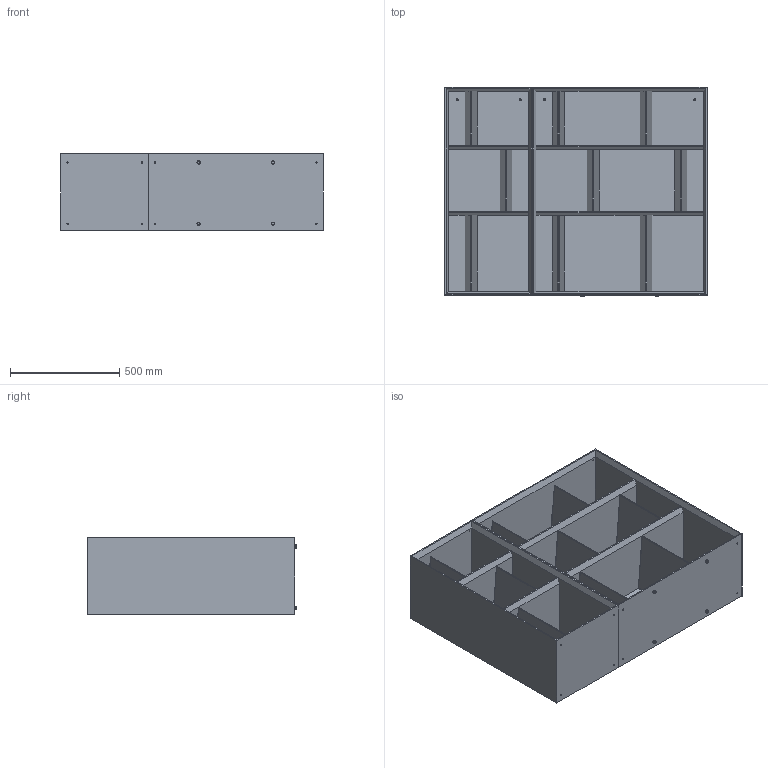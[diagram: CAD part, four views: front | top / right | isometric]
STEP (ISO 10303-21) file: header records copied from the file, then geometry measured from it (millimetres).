
FILE_DESCRIPTION (( 'STEP AP203' ), '1' );
FILE_NAME ('BL30S_Bendy A+B_120x35x95h.STEP', '2024-08-06T08:31:06', ( '' ), ( '' ), 'SwSTEP 2.0', 'SolidWorks 2022', '' );
FILE_SCHEMA (( 'CONFIG_CONTROL_DESIGN' ));
Length unit declared in the file: millimetre
Products named in the file (9): BEB00000-00-ASSIEME bendy 40x95cm_bendy B 40x95cm; BED000001-00-TRIANGOLO DIVISORIO_H.356; piedino M5; BED000001-00-TRIANGOLO DIVISORIO_H.256; BEx00000-01-BENDY Struttura tutte le dimensioni_bendy B 40x95cm<A macchina>; BED000001-00-TRIANGOLO DIVISORIO_H.292; BL30S_Bendy A+B_120x35x95h; BEx00000-01-BENDY Struttura tutte le dimensioni_bendy A 80x95cm<A macchina>; BEA00000-00-ASSIEME bendy 80x95_DEFAULT
Assembly tree (17 placements, depth 3):
  BL30S_Bendy A+B_120x35x95h
    BEA00000-00-ASSIEME bendy 80x95_DEFAULT
      BEx00000-01-BENDY Struttura tutte le dimensioni_bendy A 80x95cm<A macchina>
      BED000001-00-TRIANGOLO DIVISORIO_H.356  x2
      BED000001-00-TRIANGOLO DIVISORIO_H.292  x2
      BED000001-00-TRIANGOLO DIVISORIO_H.256  x2
    BEB00000-00-ASSIEME bendy 40x95cm_bendy B 40x95cm
      BEx00000-01-BENDY Struttura tutte le dimensioni_bendy B 40x95cm<A macchina>
      BED000001-00-TRIANGOLO DIVISORIO_H.356
      BED000001-00-TRIANGOLO DIVISORIO_H.292
      BED000001-00-TRIANGOLO DIVISORIO_H.256
    piedino M5  x4
Bounding box: 1200 x 957 x 350 mm (x, y, z)
Volume: 60473697.7 mm3; surface area: 11312919.4 mm2
Topology: 31 solids, 31 shells, 610 faces, 1434 edges, 880 vertices
Faces by surface type: plane 370, cylinder 184, cone 40, torus 16
Entity records: 14611 total; most frequent: DIRECTION 2390, CARTESIAN_POINT 2298, ORIENTED_EDGE 2220, EDGE_CURVE 1110, VECTOR 806, LINE 806, AXIS2_PLACEMENT_3D 792, VERTEX_POINT 700
